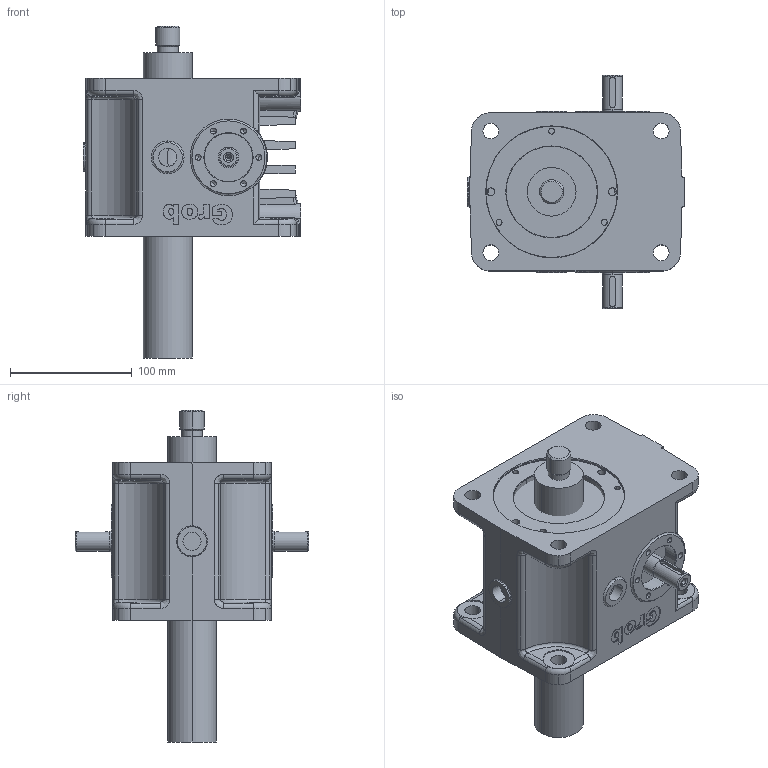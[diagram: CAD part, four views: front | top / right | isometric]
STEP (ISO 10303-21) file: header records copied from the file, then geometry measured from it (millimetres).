
FILE_DESCRIPTION(('STEP AP203'),'1');
FILE_NAME('hmc2_5-gn-kd-kd-1f-ge-0100-0000-tr40x8-b-0-o-0.stp','2025-08-19T11:49:43',('TraceParts'),('TraceParts S.A.'),'Spatial InterOp 3D',' ',' ');
FILE_SCHEMA(('CONFIG_CONTROL_DESIGN'));
Length unit declared in the file: millimetre
Products named in the file (1): 1
Bounding box: 179 x 192 x 273 mm (x, y, z)
Volume: 2715356.8 mm3; surface area: 260049.5 mm2
Topology: 5 solids, 5 shells, 616 faces, 1567 edges, 982 vertices
Faces by surface type: cylinder 252, plane 148, bspline 86, cone 80, torus 50
Entity records: 20221 total; most frequent: CARTESIAN_POINT 5504, ORIENTED_EDGE 3078, DIRECTION 3035, EDGE_CURVE 1539, AXIS2_PLACEMENT_3D 1197, VERTEX_POINT 982, EDGE_LOOP 705, LINE 641
